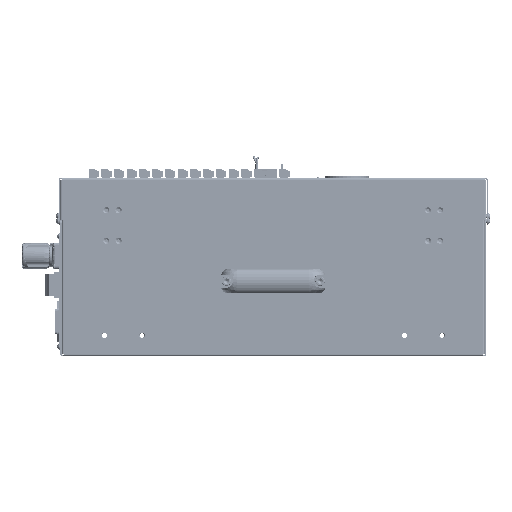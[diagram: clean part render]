
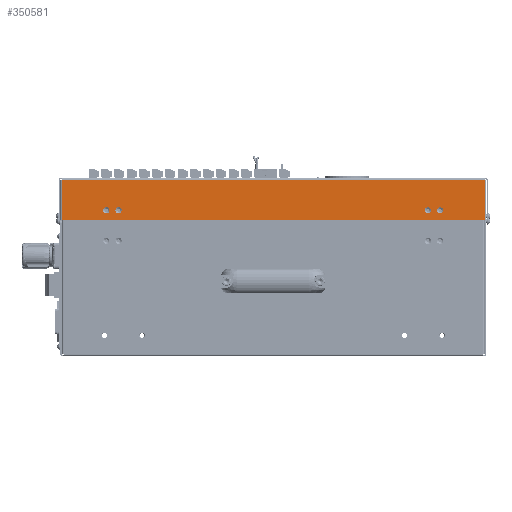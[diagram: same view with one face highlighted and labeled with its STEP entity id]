
A CAD part, front view. The second image highlights one B-rep face of the part: STEP entity #350581.
In plain terms, the highlighted planar face has unit normal (0, -1, 0) as drawn and (0, 1, 0) by its records, which use the part's own axes.
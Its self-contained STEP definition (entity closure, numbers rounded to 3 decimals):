
#19733 = EDGE_CURVE ( 'NONE', #140620, #929045, #1120804, .T. ) ;
#25365 = CARTESIAN_POINT ( 'NONE',  ( 178., 85., 33. ) ) ;
#32696 = LINE ( 'NONE', #295595, #675686 ) ;
#38916 = ORIENTED_EDGE ( 'NONE', *, *, #654217, .F. ) ;
#42258 = ORIENTED_EDGE ( 'NONE', *, *, #767209, .F. ) ;
#45264 = VERTEX_POINT ( 'NONE', #562928 ) ;
#76031 = ORIENTED_EDGE ( 'NONE', *, *, #892881, .F. ) ;
#76249 = ORIENTED_EDGE ( 'NONE', *, *, #377187, .F. ) ;
#106004 = LINE ( 'NONE', #703953, #816854 ) ;
#114372 = CIRCLE ( 'NONE', #1044854, 3.35 ) ;
#114942 = CARTESIAN_POINT ( 'NONE',  ( 225.4, 85., 28.5 ) ) ;
#121321 = VERTEX_POINT ( 'NONE', #759412 ) ;
#121329 = VECTOR ( 'NONE', #1064444, 1000. ) ;
#138980 = VERTEX_POINT ( 'NONE', #447510 ) ;
#140620 = VERTEX_POINT ( 'NONE', #1092711 ) ;
#147017 = DIRECTION ( 'NONE',  ( 0., 0., 1. ) ) ;
#164225 = AXIS2_PLACEMENT_3D ( 'NONE', #232593, #1024079, #320581 ) ;
#186986 = EDGE_LOOP ( 'NONE', ( #42258, #76031 ) ) ;
#202003 = AXIS2_PLACEMENT_3D ( 'NONE', #865093, #348829, #689251 ) ;
#232593 = CARTESIAN_POINT ( 'NONE',  ( -178., 85., 33. ) ) ;
#272914 = FACE_BOUND ( 'NONE', #341288, .T. ) ;
#276773 = CARTESIAN_POINT ( 'NONE',  ( 0., 85., 0.5 ) ) ;
#281339 = LINE ( 'NONE', #114942, #828650 ) ;
#284846 = EDGE_CURVE ( 'NONE', #881226, #660001, #987780, .T. ) ;
#295595 = CARTESIAN_POINT ( 'NONE',  ( -225.4, 85., 0. ) ) ;
#309130 = EDGE_CURVE ( 'NONE', #138980, #893021, #114372, .T. ) ;
#320581 = DIRECTION ( 'NONE',  ( 0., 0., 1. ) ) ;
#325762 = CARTESIAN_POINT ( 'NONE',  ( 225.4, 85., 43. ) ) ;
#333273 = DIRECTION ( 'NONE',  ( 0., 1., 0. ) ) ;
#333541 = ORIENTED_EDGE ( 'NONE', *, *, #399153, .T. ) ;
#341288 = EDGE_LOOP ( 'NONE', ( #76249, #992289 ) ) ;
#346788 = EDGE_LOOP ( 'NONE', ( #382543, #697730 ) ) ;
#348829 = DIRECTION ( 'NONE',  ( 0., 1., 0. ) ) ;
#350581 = ADVANCED_FACE ( 'NONE', ( #464859, #915702, #272914, #847747, #355135 ), #1074448, .T. ) ;
#355135 = FACE_OUTER_BOUND ( 'NONE', #724401, .T. ) ;
#374325 = DIRECTION ( 'NONE',  ( 0., 1., 0. ) ) ;
#377187 = EDGE_CURVE ( 'NONE', #612699, #45264, #905165, .T. ) ;
#382543 = ORIENTED_EDGE ( 'NONE', *, *, #309130, .F. ) ;
#393301 = DIRECTION ( 'NONE',  ( 0., 0., 1. ) ) ;
#399153 = EDGE_CURVE ( 'NONE', #788523, #1007582, #106004, .T. ) ;
#410786 = DIRECTION ( 'NONE',  ( 0., 1., 0. ) ) ;
#431233 = CARTESIAN_POINT ( 'NONE',  ( -225.4, 85., 0.5 ) ) ;
#447510 = CARTESIAN_POINT ( 'NONE',  ( 165., 85., 36.35 ) ) ;
#460242 = DIRECTION ( 'NONE',  ( 0., 0., -1. ) ) ;
#461270 = CARTESIAN_POINT ( 'NONE',  ( 165., 85., 29.65 ) ) ;
#462540 = ORIENTED_EDGE ( 'NONE', *, *, #284846, .F. ) ;
#464859 = FACE_BOUND ( 'NONE', #186986, .T. ) ;
#487193 = CARTESIAN_POINT ( 'NONE',  ( -225.4, 85., 43. ) ) ;
#501544 = DIRECTION ( 'NONE',  ( 0., 0., 1. ) ) ;
#520576 = DIRECTION ( 'NONE',  ( 1., 0., 0. ) ) ;
#524575 = AXIS2_PLACEMENT_3D ( 'NONE', #550653, #722722, #894788 ) ;
#528704 = CARTESIAN_POINT ( 'NONE',  ( -178., 85., 36.35 ) ) ;
#537509 = VERTEX_POINT ( 'NONE', #701800 ) ;
#546653 = CARTESIAN_POINT ( 'NONE',  ( 165., 85., 33. ) ) ;
#550653 = CARTESIAN_POINT ( 'NONE',  ( 0., 85., 0. ) ) ;
#561203 = AXIS2_PLACEMENT_3D ( 'NONE', #927918, #675506, #1023431 ) ;
#562928 = CARTESIAN_POINT ( 'NONE',  ( -178., 85., 29.65 ) ) ;
#571615 = CARTESIAN_POINT ( 'NONE',  ( -165., 85., 29.65 ) ) ;
#581419 = CIRCLE ( 'NONE', #744756, 3.35 ) ;
#597804 = ORIENTED_EDGE ( 'NONE', *, *, #707011, .F. ) ;
#612699 = VERTEX_POINT ( 'NONE', #528704 ) ;
#628664 = ORIENTED_EDGE ( 'NONE', *, *, #1108603, .F. ) ;
#631045 = ORIENTED_EDGE ( 'NONE', *, *, #19733, .T. ) ;
#637167 = DIRECTION ( 'NONE',  ( 0., 1., 0. ) ) ;
#654217 = EDGE_CURVE ( 'NONE', #660001, #881226, #828455, .T. ) ;
#660001 = VERTEX_POINT ( 'NONE', #792349 ) ;
#675506 = DIRECTION ( 'NONE',  ( 0., 1., 0. ) ) ;
#675686 = VECTOR ( 'NONE', #460242, 1000. ) ;
#689251 = DIRECTION ( 'NONE',  ( 0., 0., 1. ) ) ;
#697730 = ORIENTED_EDGE ( 'NONE', *, *, #824395, .F. ) ;
#701800 = CARTESIAN_POINT ( 'NONE',  ( 178., 85., 36.35 ) ) ;
#703953 = CARTESIAN_POINT ( 'NONE',  ( 225.4, 85., 43. ) ) ;
#707011 = EDGE_CURVE ( 'NONE', #788523, #929045, #32696, .T. ) ;
#722448 = DIRECTION ( 'NONE',  ( 0., 0., 1. ) ) ;
#722722 = DIRECTION ( 'NONE',  ( 0., 1., 0. ) ) ;
#724401 = EDGE_LOOP ( 'NONE', ( #628664, #631045, #597804, #333541 ) ) ;
#728734 = DIRECTION ( 'NONE',  ( 0., 0., 1. ) ) ;
#744756 = AXIS2_PLACEMENT_3D ( 'NONE', #546653, #374325, #722448 ) ;
#759412 = CARTESIAN_POINT ( 'NONE',  ( 178., 85., 29.65 ) ) ;
#760320 = AXIS2_PLACEMENT_3D ( 'NONE', #25365, #637167, #728734 ) ;
#767209 = EDGE_CURVE ( 'NONE', #537509, #121321, #898417, .T. ) ;
#788523 = VERTEX_POINT ( 'NONE', #487193 ) ;
#792349 = CARTESIAN_POINT ( 'NONE',  ( -165., 85., 36.35 ) ) ;
#800487 = AXIS2_PLACEMENT_3D ( 'NONE', #849526, #333273, #501544 ) ;
#801745 = AXIS2_PLACEMENT_3D ( 'NONE', #1008818, #993736, #393301 ) ;
#803337 = DIRECTION ( 'NONE',  ( 0., 0., 1. ) ) ;
#816854 = VECTOR ( 'NONE', #520576, 1000. ) ;
#824395 = EDGE_CURVE ( 'NONE', #893021, #138980, #581419, .T. ) ;
#828455 = CIRCLE ( 'NONE', #561203, 3.35 ) ;
#828650 = VECTOR ( 'NONE', #803337, 1000. ) ;
#844300 = EDGE_LOOP ( 'NONE', ( #38916, #462540 ) ) ;
#847747 = FACE_BOUND ( 'NONE', #844300, .T. ) ;
#849526 = CARTESIAN_POINT ( 'NONE',  ( -165., 85., 33. ) ) ;
#865093 = CARTESIAN_POINT ( 'NONE',  ( -178., 85., 33. ) ) ;
#881226 = VERTEX_POINT ( 'NONE', #571615 ) ;
#892881 = EDGE_CURVE ( 'NONE', #121321, #537509, #934058, .T. ) ;
#893021 = VERTEX_POINT ( 'NONE', #461270 ) ;
#894788 = DIRECTION ( 'NONE',  ( 0., 0., 1. ) ) ;
#898417 = CIRCLE ( 'NONE', #801745, 3.35 ) ;
#905165 = CIRCLE ( 'NONE', #202003, 3.35 ) ;
#915702 = FACE_BOUND ( 'NONE', #346788, .T. ) ;
#927918 = CARTESIAN_POINT ( 'NONE',  ( -165., 85., 33. ) ) ;
#929045 = VERTEX_POINT ( 'NONE', #431233 ) ;
#934058 = CIRCLE ( 'NONE', #760320, 3.35 ) ;
#987780 = CIRCLE ( 'NONE', #800487, 3.35 ) ;
#992289 = ORIENTED_EDGE ( 'NONE', *, *, #1042001, .F. ) ;
#993736 = DIRECTION ( 'NONE',  ( 0., 1., 0. ) ) ;
#1007582 = VERTEX_POINT ( 'NONE', #325762 ) ;
#1008818 = CARTESIAN_POINT ( 'NONE',  ( 178., 85., 33. ) ) ;
#1023431 = DIRECTION ( 'NONE',  ( 0., 0., 1. ) ) ;
#1024079 = DIRECTION ( 'NONE',  ( 0., 1., 0. ) ) ;
#1042001 = EDGE_CURVE ( 'NONE', #45264, #612699, #1052641, .T. ) ;
#1044854 = AXIS2_PLACEMENT_3D ( 'NONE', #1117913, #410786, #147017 ) ;
#1052641 = CIRCLE ( 'NONE', #164225, 3.35 ) ;
#1064444 = DIRECTION ( 'NONE',  ( -1., 0., 0. ) ) ;
#1074448 = PLANE ( 'NONE',  #524575 ) ;
#1092711 = CARTESIAN_POINT ( 'NONE',  ( 225.4, 85., 0.5 ) ) ;
#1108603 = EDGE_CURVE ( 'NONE', #140620, #1007582, #281339, .T. ) ;
#1117913 = CARTESIAN_POINT ( 'NONE',  ( 165., 85., 33. ) ) ;
#1120804 = LINE ( 'NONE', #276773, #121329 ) ;
